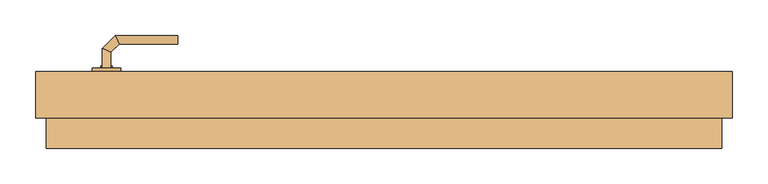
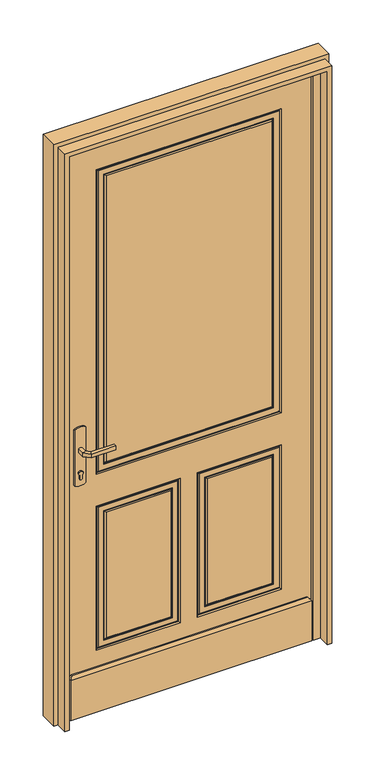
"""IFC4 building model written with IfcOpenShell, lengths in millimetres: door geometry, Entrée (avec angle d'ouverture) : PP Avec moulures (0.90 m x 2.15 m)."""

from ifc_helpers import new_model, si_unit, point, frame, frame_2d, origin, place, context, project, spatial, polyline, circle_curve, ellipse_curve, trimmed, segment, composite_curve, outline, extrude, faceted_brep, source, transform, mapped, element, save
from ifc_brep_helpers import plane_surface, cylinder_surface, advanced_brep


def door_88e42b76(model_context):
    return source(origin(), model_context, "Body", "SolidModel", [
        extrude(outline(composite_curve([segment(trimmed(circle_curve(frame_2d((904.6410162, -400.0)), 40.0), [point((870.0, -420.0))], [point((870.0, -380.0))], False, "CARTESIAN"), True, "CONTINUOUS"), segment(polyline([(870.0, -380.0), (1080.0, -380.0)]), True, "CONTINUOUS"), segment(trimmed(circle_curve(frame_2d((1045.3589838, -400.0)), 40.0), [point((1080.0, -380.0))], [point((1080.0, -420.0))], False, "CARTESIAN"), True, "CONTINUOUS"), segment(polyline([(1080.0, -420.0), (870.0, -420.0)]), True, "CONTINUOUS")], self_intersect=False)), frame((0.0, 108.0, 0.0), z_axis=(0.0, 1.0, 0.0), x_axis=(0.0, 0.0, 1.0)), (0.0, 0.0, 1.0), 5.0),
        extrude(outline(composite_curve([segment(trimmed(circle_curve(frame_2d((1045.3589838, -400.0)), 40.0), [point((1080.0, -380.0))], [point((1080.0, -420.0))], False, "CARTESIAN"), True, "CONTINUOUS"), segment(polyline([(1080.0, -420.0), (870.0, -420.0)]), True, "CONTINUOUS"), segment(trimmed(circle_curve(frame_2d((904.6410162, -400.0)), 40.0), [point((870.0, -420.0))], [point((870.0, -380.0))], False, "CARTESIAN"), True, "CONTINUOUS"), segment(polyline([(870.0, -380.0), (1080.0, -380.0)]), True, "CONTINUOUS")], self_intersect=False)), frame((0.0, 53.0, 0.0), z_axis=(0.0, 1.0, 0.0), x_axis=(0.0, 0.0, 1.0)), (0.0, 0.0, 1.0), 5.0),
        advanced_brep(
        [(-406.0, 113.0, 1007.0), (-406.0, 113.0, 993.0), (-394.0, 113.0, 993.0), (-394.0, 113.0, 1007.0), (-394.0, 135.680388, 1007.0), (-406.0, 140.6509507, 1007.0), (-394.0, 135.680388, 993.0), (-406.0, 140.6509507, 993.0), (-382.6522273, 147.0281607, 1007.0), (-387.62279, 159.0281607, 1007.0), (-382.6522273, 147.0281607, 993.0), (-387.62279, 159.0281607, 993.0), (-299.9813594, 159.0281607, 1007.0), (-299.9813594, 147.0281607, 1007.0), (-299.9813594, 147.0281607, 993.0), (-299.9813594, 159.0281607, 993.0)],
        [
            (0, 1),
            (1, 2, circle_curve(frame((-400.0, 113.0, 1013.0457722), z_axis=(0.0, -1.0, 0.0), x_axis=(1.0, 0.0, 0.0)), 20.9244589)),
            (2, 3),
            (3, 0, circle_curve(frame((-400.0, 113.0, 986.9542278), z_axis=(0.0, -1.0, 0.0), x_axis=(1.0, 0.0, 0.0)), 20.9244589)),
            (3, 4),
            (4, 5, ellipse_curve(frame((-400.0, 138.1656693, 986.9542278), z_axis=(-0.3826834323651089, -0.9238795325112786, 0.0), x_axis=(0.9238795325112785, -0.3826834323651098, 0.0)), 22.6484711, 20.9244589)),
            (5, 0),
            (2, 6),
            (6, 4),
            (1, 7),
            (7, 6, ellipse_curve(frame((-400.0, 138.1656693, 1013.0457722), z_axis=(-0.3826834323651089, -0.9238795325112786, 0.0), x_axis=(0.9238795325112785, -0.3826834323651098, 0.0)), 22.6484711, 20.9244589)),
            (5, 7),
            (4, 8),
            (8, 9, ellipse_curve(frame((-385.1375087, 153.0281607, 986.9542278), z_axis=(-0.9238795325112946, -0.38268343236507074, 0.0), x_axis=(0.3826834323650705, -0.9238795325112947, 0.0)), 22.6484711, 20.9244589)),
            (9, 5),
            (6, 10),
            (10, 8),
            (7, 11),
            (11, 10, ellipse_curve(frame((-385.1375087, 153.0281607, 1013.0457722), z_axis=(-0.9238795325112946, -0.38268343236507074, 0.0), x_axis=(0.3826834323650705, -0.9238795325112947, 0.0)), 22.6484711, 20.9244589)),
            (9, 11),
            (12, 13, circle_curve(frame((-299.9813594, 153.0281607, 986.9542278), z_axis=(1.0, 0.0, 0.0), x_axis=(0.0, -1.0, 0.0)), 20.9244589)),
            (13, 14),
            (14, 15, circle_curve(frame((-299.9813594, 153.0281607, 1013.0457722), z_axis=(1.0, 0.0, 0.0), x_axis=(0.0, -1.0, 0.0)), 20.9244589)),
            (15, 12),
            (8, 13),
            (12, 9),
            (10, 14),
            (11, 15),
        ],
        [
            plane_surface(frame((-409.2195445, 113.0, 1000.0), z_axis=(0.0, -1.0, 0.0), x_axis=(0.0, 0.0, -1.0))),
            cylinder_surface(frame((-400.0, 113.0, 986.9542278), z_axis=(0.0, -1.0, 0.0), x_axis=(1.0, 0.0, 0.0)), 20.9244589),
            plane_surface(frame((-394.0, 113.0, 1007.0), z_axis=(1.0, 0.0, 0.0), x_axis=(0.0, 1.0, 0.0))),
            cylinder_surface(frame((-400.0, 113.0, 1013.0457722), z_axis=(0.0, -1.0, 0.0), x_axis=(1.0, 0.0, 0.0)), 20.9244589),
            plane_surface(frame((-406.0, 113.0, 993.0), z_axis=(-1.0, 0.0, 0.0), x_axis=(0.0, 1.0, 0.0))),
            cylinder_surface(frame((-400.0, 138.1656693, 986.9542278), z_axis=(-0.7071067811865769, -0.7071067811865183, 0.0), x_axis=(0.7071067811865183, -0.7071067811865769, 0.0)), 20.9244589),
            plane_surface(frame((-394.0, 135.680388, 1007.0), z_axis=(0.7071067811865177, -0.7071067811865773, 0.0), x_axis=(0.7071067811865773, 0.7071067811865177, 0.0))),
            cylinder_surface(frame((-400.0, 138.1656693, 1013.0457722), z_axis=(-0.7071067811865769, -0.7071067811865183, 0.0), x_axis=(0.7071067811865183, -0.7071067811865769, 0.0)), 20.9244589),
            plane_surface(frame((-406.0, 140.6509507, 993.0), z_axis=(-0.7071067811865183, 0.7071067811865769, 0.0), x_axis=(0.7071067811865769, 0.7071067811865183, 0.0))),
            plane_surface(frame((-299.9813594, 153.0281607, 990.7804555), z_axis=(1.0, 0.0, 0.0), x_axis=(0.0, -1.0, 0.0))),
            cylinder_surface(frame((-385.1375087, 153.0281607, 986.9542278), z_axis=(-1.0, 0.0, 0.0), x_axis=(0.0, -1.0, 0.0)), 20.9244589),
            plane_surface(frame((-382.6522273, 147.0281607, 1007.0), z_axis=(0.0, -1.0, 0.0), x_axis=(1.0, 0.0, 0.0))),
            cylinder_surface(frame((-385.1375087, 153.0281607, 1013.0457722), z_axis=(-1.0, 0.0, 0.0), x_axis=(0.0, -1.0, 0.0)), 20.9244589),
            plane_surface(frame((-387.62279, 159.0281607, 993.0), z_axis=(0.0, 1.0, 0.0), x_axis=(1.0, 0.0, 0.0))),
        ],
        [
            (0, [[1, 2, 3, 4]]),
            (1, [[5, 6, 7, -4]]),
            (2, [[8, 9, -5, -3]]),
            (3, [[10, 11, -8, -2]]),
            (4, [[-7, 12, -10, -1]]),
            (5, [[13, 14, 15, -6]]),
            (6, [[16, 17, -13, -9]]),
            (7, [[18, 19, -16, -11]]),
            (8, [[-15, 20, -18, -12]]),
            (9, [[21, 22, 23, 24]]),
            (10, [[25, -21, 26, -14]]),
            (11, [[27, -22, -25, -17]]),
            (12, [[28, -23, -27, -19]]),
            (13, [[-26, -24, -28, -20]]),
        ],
    ),
        advanced_brep(
        [(-394.0, 53.0, 993.0), (-406.0, 53.0, 993.0), (-406.0, 53.0, 1007.0), (-394.0, 53.0, 1007.0), (-394.0, 30.5147955, 1007.0), (-394.0, 30.5147955, 993.0), (-406.0, 25.5442327, 1007.0), (-406.0, 25.5442327, 993.0), (-382.5147186, 19.0295141, 1007.0), (-382.5147186, 19.0295141, 993.0), (-387.4852814, 7.0295141, 1007.0), (-387.4852814, 7.0295141, 993.0), (-299.9542164, 19.0295141, 993.0), (-299.9542164, 19.0295141, 1007.0), (-299.9542164, 7.0295141, 1007.0), (-299.9542164, 7.0295141, 993.0)],
        [
            (0, 1, circle_curve(frame((-400.0, 53.0, 1013.0457722), z_axis=(0.0, 1.0, 0.0), x_axis=(-1.0, 0.0, 0.0)), 20.9244589)),
            (1, 2),
            (2, 3, circle_curve(frame((-400.0, 53.0, 986.9542278), z_axis=(0.0, 1.0, 0.0), x_axis=(-1.0, 0.0, 0.0)), 20.9244589)),
            (3, 0),
            (3, 4),
            (4, 5),
            (5, 0),
            (2, 6),
            (6, 4, ellipse_curve(frame((-400.0, 28.0295141, 986.9542278), z_axis=(-0.3826834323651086, 0.923879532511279, 0.0), x_axis=(0.9238795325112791, 0.3826834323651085, 0.0)), 22.6484711, 20.9244589)),
            (1, 7),
            (7, 6),
            (5, 7, ellipse_curve(frame((-400.0, 28.0295141, 1013.0457722), z_axis=(-0.3826834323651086, 0.923879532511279, 0.0), x_axis=(0.9238795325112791, 0.3826834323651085, 0.0)), 22.6484711, 20.9244589)),
            (4, 8),
            (8, 9),
            (9, 5),
            (6, 10),
            (10, 8, ellipse_curve(frame((-385.0, 13.0295141, 986.9542278), z_axis=(-0.9238795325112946, 0.38268343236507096, 0.0), x_axis=(0.3826834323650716, 0.9238795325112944, 0.0)), 22.6484711, 20.9244589)),
            (7, 11),
            (11, 10),
            (9, 11, ellipse_curve(frame((-385.0, 13.0295141, 1013.0457722), z_axis=(-0.9238795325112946, 0.38268343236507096, 0.0), x_axis=(0.3826834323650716, 0.9238795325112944, 0.0)), 22.6484711, 20.9244589)),
            (12, 13),
            (13, 14, circle_curve(frame((-299.9542164, 13.0295141, 986.9542278), z_axis=(1.0, 0.0, 0.0), x_axis=(0.0, -1.0, 0.0)), 20.9244589)),
            (14, 15),
            (15, 12, circle_curve(frame((-299.9542164, 13.0295141, 1013.0457722), z_axis=(1.0, 0.0, 0.0), x_axis=(0.0, -1.0, 0.0)), 20.9244589)),
            (8, 13),
            (12, 9),
            (10, 14),
            (11, 15),
        ],
        [
            plane_surface(frame((-409.2195445, 53.0, 1000.0), z_axis=(0.0, 1.0, 0.0), x_axis=(0.0, 0.0, 1.0))),
            plane_surface(frame((-394.0, 53.0, 993.0), z_axis=(1.0, 0.0, 0.0), x_axis=(0.0, -1.0, 0.0))),
            cylinder_surface(frame((-400.0, 53.0, 986.9542278), z_axis=(0.0, 1.0, 0.0), x_axis=(-1.0, 0.0, 0.0)), 20.9244589),
            plane_surface(frame((-406.0, 53.0, 1007.0), z_axis=(-1.0, 0.0, 0.0), x_axis=(0.0, -1.0, 0.0))),
            cylinder_surface(frame((-400.0, 53.0, 1013.0457722), z_axis=(0.0, 1.0, 0.0), x_axis=(-1.0, 0.0, 0.0)), 20.9244589),
            plane_surface(frame((-394.0, 30.5147955, 993.0), z_axis=(0.7071067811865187, 0.7071067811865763, 0.0), x_axis=(0.7071067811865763, -0.7071067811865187, 0.0))),
            cylinder_surface(frame((-400.0, 28.0295141, 986.9542278), z_axis=(-0.7071067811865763, 0.7071067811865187, 0.0), x_axis=(-0.7071067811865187, -0.7071067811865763, 0.0)), 20.9244589),
            plane_surface(frame((-406.0, 25.5442327, 1007.0), z_axis=(-0.7071067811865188, -0.7071067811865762, 0.0), x_axis=(0.7071067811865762, -0.7071067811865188, 0.0))),
            cylinder_surface(frame((-400.0, 28.0295141, 1013.0457722), z_axis=(-0.7071067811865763, 0.7071067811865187, 0.0), x_axis=(-0.7071067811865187, -0.7071067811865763, 0.0)), 20.9244589),
            plane_surface(frame((-299.9542164, 13.0295141, 990.7804555), z_axis=(1.0, 0.0, 0.0), x_axis=(0.0, -1.0, 0.0))),
            plane_surface(frame((-382.5147186, 19.0295141, 993.0), z_axis=(0.0, 1.0, 0.0), x_axis=(1.0, 0.0, 0.0))),
            cylinder_surface(frame((-385.0, 13.0295141, 986.9542278), z_axis=(-1.0, 0.0, 0.0), x_axis=(0.0, -1.0, 0.0)), 20.9244589),
            plane_surface(frame((-387.4852814, 7.0295141, 1007.0), z_axis=(0.0, -1.0, 0.0), x_axis=(1.0, 0.0, 0.0))),
            cylinder_surface(frame((-385.0, 13.0295141, 1013.0457722), z_axis=(-1.0, 0.0, 0.0), x_axis=(0.0, -1.0, 0.0)), 20.9244589),
        ],
        [
            (0, [[1, 2, 3, 4]]),
            (1, [[5, 6, 7, -4]]),
            (2, [[8, 9, -5, -3]]),
            (3, [[10, 11, -8, -2]]),
            (4, [[-7, 12, -10, -1]]),
            (5, [[13, 14, 15, -6]]),
            (6, [[16, 17, -13, -9]]),
            (7, [[18, 19, -16, -11]]),
            (8, [[-15, 20, -18, -12]]),
            (9, [[21, 22, 23, 24]]),
            (10, [[25, -21, 26, -14]]),
            (11, [[27, -22, -25, -17]]),
            (12, [[28, -23, -27, -19]]),
            (13, [[-26, -24, -28, -20]]),
        ],
    ),
        extrude(outline(composite_curve([segment(polyline([(908.0464422, -405.0), (895.0, -405.0)]), True, "CONTINUOUS"), segment(trimmed(circle_curve(frame_2d((895.0, -400.0)), 5.0), [point((895.0, -405.0))], [point((895.0, -395.0))], False, "CARTESIAN"), True, "CONTINUOUS"), segment(polyline([(895.0, -395.0), (908.0464422, -395.0)]), True, "CONTINUOUS"), segment(trimmed(circle_curve(frame_2d((914.2914402, -400.0)), 8.0), [point((908.0464422, -395.0))], [point((908.0464422, -405.0))], False, "CARTESIAN"), True, "CONTINUOUS")], self_intersect=False)), frame((0.0, 113.0, 0.0), z_axis=(0.0, 1.0, 0.0), x_axis=(0.0, 0.0, 1.0)), (0.0, 0.0, 1.0), 3.0),
        extrude(outline(composite_curve([segment(polyline([(908.0464422, -405.0), (895.0, -405.0)]), True, "CONTINUOUS"), segment(trimmed(circle_curve(frame_2d((895.0, -400.0)), 5.0), [point((895.0, -405.0))], [point((895.0, -395.0))], False, "CARTESIAN"), True, "CONTINUOUS"), segment(polyline([(895.0, -395.0), (908.0464422, -395.0)]), True, "CONTINUOUS"), segment(trimmed(circle_curve(frame_2d((914.2914402, -400.0)), 8.0), [point((908.0464422, -395.0))], [point((908.0464422, -405.0))], False, "CARTESIAN"), True, "CONTINUOUS")], self_intersect=False)), frame((0.0, 48.0, 0.0), z_axis=(0.0, 1.0, 0.0), x_axis=(0.0, 0.0, 1.0)), (0.0, 0.0, 1.0), 5.0),
        faceted_brep([(440.0, 108.0, 2150.0), (440.0, 108.0, 0.0), (-460.0, 108.0, 0.0), (-460.0, 108.0, 2150.0), (440.0, 58.0, 2150.0), (-460.0, 58.0, 2150.0), (-460.0, 58.0, 0.0), (440.0, 58.0, 0.0), (-340.0, 58.0, 2030.0), (320.0, 58.0, 2030.0), (320.0, 58.0, 883.3333333), (-340.0, 58.0, 883.3333333), (20.0, 58.0, 763.3333333), (320.0, 58.0, 763.3333333), (320.0, 58.0, 220.0), (20.0, 58.0, 220.0), (-340.0, 58.0, 763.3333333), (-40.0, 58.0, 763.3333333), (-40.0, 58.0, 220.0), (-340.0, 58.0, 220.0), (-305.0, 58.0, 918.3333333), (285.0, 58.0, 918.3333333), (285.0, 58.0, 1995.0), (-305.0, 58.0, 1995.0), (55.0, 58.0, 255.0), (285.0, 58.0, 255.0), (285.0, 58.0, 728.3333333), (55.0, 58.0, 728.3333333), (-305.0, 58.0, 255.0), (-75.0, 58.0, 255.0), (-75.0, 58.0, 728.3333333), (-305.0, 58.0, 728.3333333), (-336.4644661, 61.5355339, 886.8688672), (-336.4644661, 61.5355339, 2026.4644661), (-308.5355339, 61.5355339, 914.7977994), (-308.5355339, 61.5355339, 1998.5355339), (-312.6388478, 59.8966861, 910.6944856), (-311.0, 61.5355339, 912.3333333), (-311.0, 61.5355339, 2001.0), (-312.6388478, 59.8966861, 2002.6388478), (-334.0, 61.5355339, 889.3333333), (-332.3611522, 59.8966861, 890.9721811), (-332.3611522, 59.8966861, 2022.3611522), (-334.0, 61.5355339, 2024.0), (316.4644661, 61.5355339, 2026.4644661), (288.5355339, 61.5355339, 1998.5355339), (291.0, 61.5355339, 2001.0), (292.6388478, 59.8966861, 2002.6388478), (312.3611522, 59.8966861, 2022.3611522), (314.0, 61.5355339, 2024.0), (316.4644661, 61.5355339, 886.8688672), (288.5355339, 61.5355339, 914.7977994), (291.0, 61.5355339, 912.3333333), (292.6388478, 59.8966861, 910.6944856), (312.3611522, 59.8966861, 890.9721811), (314.0, 61.5355339, 889.3333333), (23.5355339, 61.5355339, 223.5355339), (23.5355339, 61.5355339, 759.7977994), (51.4644661, 61.5355339, 251.4644661), (51.4644661, 61.5355339, 731.8688672), (47.3611522, 59.8966861, 247.3611522), (49.0, 61.5355339, 249.0), (49.0, 61.5355339, 734.3333333), (47.3611522, 59.8966861, 735.9721811), (26.0, 61.5355339, 226.0), (27.6388478, 59.8966861, 227.6388478), (27.6388478, 59.8966861, 755.6944856), (26.0, 61.5355339, 757.3333333), (316.4644661, 61.5355339, 759.7977994), (288.5355339, 61.5355339, 731.8688672), (291.0, 61.5355339, 734.3333333), (292.6388478, 59.8966861, 735.9721811), (312.3611522, 59.8966861, 755.6944856), (314.0, 61.5355339, 757.3333333), (316.4644661, 61.5355339, 223.5355339), (288.5355339, 61.5355339, 251.4644661), (291.0, 61.5355339, 249.0), (292.6388478, 59.8966861, 247.3611522), (312.3611522, 59.8966861, 227.6388478), (314.0, 61.5355339, 226.0), (-336.4644661, 61.5355339, 223.5355339), (-336.4644661, 61.5355339, 759.7977994), (-308.5355339, 61.5355339, 251.4644661), (-308.5355339, 61.5355339, 731.8688672), (-312.6388478, 59.8966861, 247.3611522), (-311.0, 61.5355339, 249.0), (-311.0, 61.5355339, 734.3333333), (-312.6388478, 59.8966861, 735.9721811), (-334.0, 61.5355339, 226.0), (-332.3611522, 59.8966861, 227.6388478), (-332.3611522, 59.8966861, 755.6944856), (-334.0, 61.5355339, 757.3333333), (-43.5355339, 61.5355339, 759.7977994), (-71.4644661, 61.5355339, 731.8688672), (-69.0, 61.5355339, 734.3333333), (-67.3611522, 59.8966861, 735.9721811), (-47.6388478, 59.8966861, 755.6944856), (-46.0, 61.5355339, 757.3333333), (-43.5355339, 61.5355339, 223.5355339), (-71.4644661, 61.5355339, 251.4644661), (-69.0, 61.5355339, 249.0), (-67.3611522, 59.8966861, 247.3611522), (-47.6388478, 59.8966861, 227.6388478), (-46.0, 61.5355339, 226.0)], [[[0, 1, 2, 3]], [[4, 5, 6, 7], [8, 9, 10, 11], [12, 13, 14, 15], [16, 17, 18, 19]], [[20, 21, 22, 23]], [[24, 25, 26, 27]], [[28, 29, 30, 31]], [[3, 5, 4, 0]], [[2, 6, 5, 3]], [[1, 7, 6, 2]], [[0, 4, 7, 1]], [[8, 11, 32, 33]], [[34, 20, 23, 35]], [[36, 37, 38, 39]], [[40, 41, 42, 43]], [[33, 44, 9, 8]], [[23, 22, 45, 35]], [[38, 46, 47, 39]], [[42, 48, 49, 43]], [[44, 50, 10, 9]], [[22, 21, 51, 45]], [[46, 52, 53, 47]], [[48, 54, 55, 49]], [[11, 10, 50, 32]], [[34, 51, 21, 20]], [[37, 52, 46, 38], [35, 45, 51, 34]], [[36, 53, 52, 37]], [[41, 54, 48, 42], [39, 47, 53, 36]], [[40, 55, 54, 41]], [[32, 50, 44, 33], [43, 49, 55, 40]], [[12, 15, 56, 57]], [[58, 24, 27, 59]], [[60, 61, 62, 63]], [[64, 65, 66, 67]], [[57, 68, 13, 12]], [[27, 26, 69, 59]], [[62, 70, 71, 63]], [[66, 72, 73, 67]], [[68, 74, 14, 13]], [[26, 25, 75, 69]], [[70, 76, 77, 71]], [[72, 78, 79, 73]], [[15, 14, 74, 56]], [[58, 75, 25, 24]], [[61, 76, 70, 62], [59, 69, 75, 58]], [[60, 77, 76, 61]], [[65, 78, 72, 66], [63, 71, 77, 60]], [[64, 79, 78, 65]], [[56, 74, 68, 57], [67, 73, 79, 64]], [[16, 19, 80, 81]], [[82, 28, 31, 83]], [[84, 85, 86, 87]], [[88, 89, 90, 91]], [[81, 92, 17, 16]], [[31, 30, 93, 83]], [[86, 94, 95, 87]], [[90, 96, 97, 91]], [[92, 98, 18, 17]], [[30, 29, 99, 93]], [[94, 100, 101, 95]], [[96, 102, 103, 97]], [[19, 18, 98, 80]], [[82, 99, 29, 28]], [[85, 100, 94, 86], [83, 93, 99, 82]], [[84, 101, 100, 85]], [[89, 102, 96, 90], [87, 95, 101, 84]], [[88, 103, 102, 89]], [[80, 98, 92, 81], [91, 97, 103, 88]]]),
        faceted_brep([(-440.0, 58.0, 0.0), (-440.0, 58.0, 150.0), (-430.0, 58.0, 160.0), (410.0, 58.0, 160.0), (420.0, 58.0, 150.0), (420.0, 58.0, 0.0), (420.0, 43.0, 0.0), (420.0, 43.0, 150.0), (-440.0, 43.0, 150.0), (-440.0, 43.0, 0.0), (-430.0, 53.0, 160.0), (410.0, 53.0, 160.0)], [[[0, 1, 2, 3, 4, 5]], [[6, 7, 8, 9]], [[9, 8, 1, 0]], [[5, 6, 9, 0]], [[5, 4, 7, 6]], [[2, 10, 11, 3]], [[7, 4, 3, 11]], [[11, 10, 8, 7]], [[10, 2, 1, 8]]]),
        faceted_brep([(-500.0, 43.0, 0.0), (-500.0, 108.0, 0.0), (-460.0, 108.0, 0.0), (-460.0, 58.0, 0.0), (-445.0, 58.0, 0.0), (-445.0, 43.0, 0.0), (-445.0, 43.0, 2135.0), (425.0, 43.0, 2135.0), (425.0, 43.0, 0.0), (480.0, 43.0, 0.0), (480.0, 43.0, 2190.0), (-500.0, 43.0, 2190.0), (-445.0, 58.0, 2135.0), (-460.0, 58.0, 2150.0), (440.0, 58.0, 2150.0), (440.0, 58.0, 0.0), (425.0, 58.0, 0.0), (425.0, 58.0, 2135.0), (-460.0, 108.0, 2150.0), (-500.0, 108.0, 2190.0), (480.0, 108.0, 2190.0), (480.0, 108.0, 0.0), (440.0, 108.0, 0.0), (440.0, 108.0, 2150.0)], [[[0, 1, 2, 3, 4, 5]], [[5, 6, 7, 8, 9, 10, 11, 0]], [[4, 12, 6, 5]], [[3, 13, 14, 15, 16, 17, 12, 4]], [[2, 18, 13, 3]], [[1, 19, 20, 21, 22, 23, 18, 2]], [[0, 11, 19, 1]], [[10, 9, 21, 20]], [[9, 8, 16, 15, 22, 21]], [[17, 16, 8, 7]], [[23, 22, 15, 14]], [[12, 17, 7, 6]], [[18, 23, 14, 13]], [[11, 10, 20, 19]]]),
        extrude(outline(polyline([(0.0, -470.0), (2160.0, -470.0), (2160.0, 450.0), (0.0, 450.0), (0.0, 465.0), (2175.0, 465.0), (2175.0, -485.0), (0.0, -485.0), (0.0, -470.0)])), frame((0.0, 0.0, 0.0), z_axis=(0.0, 1.0, 0.0), x_axis=(0.0, 0.0, 1.0)), (0.0, 0.0, 1.0), 43.0),
    ])


if __name__ == "__main__":
    model = new_model("IFC4")
    model_context = context("Model", 3, world=origin())
    ifc_project = project(units=[si_unit("LENGTHUNIT", "METRE", prefix="MILLI")], contexts=[model_context])
    site = spatial("IfcSite", under=ifc_project)
    building = spatial("IfcBuilding", under=site)
    placement = place(None, origin())
    door_shape = door_88e42b76(model_context)
    element("IfcDoor", 1, ObjectType="Entrée (avec angle d'ouverture) : PP Avec moulures (0.90 m x 2.15 m)", at=placement, inside=building, context=model_context, shape_type="MappedRepresentation", body=[
        mapped(door_shape, transform((0.0, 0.0, 0.0), x_axis=(1.0, 0.0, 0.0), y_axis=(0.0, 1.0, 0.0), z_axis=(0.0, 0.0, 1.0))),
    ])
    save(model, "model.ifc")
